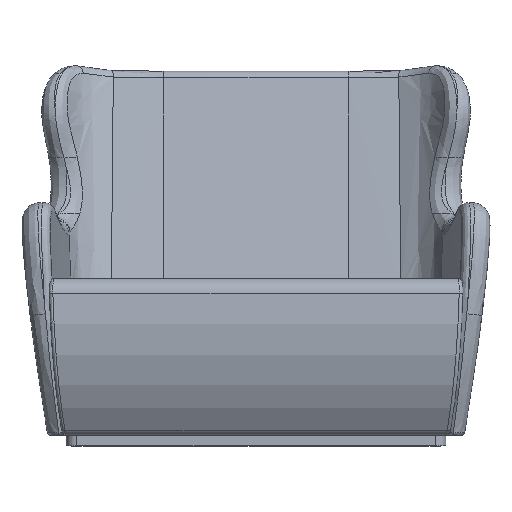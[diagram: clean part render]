
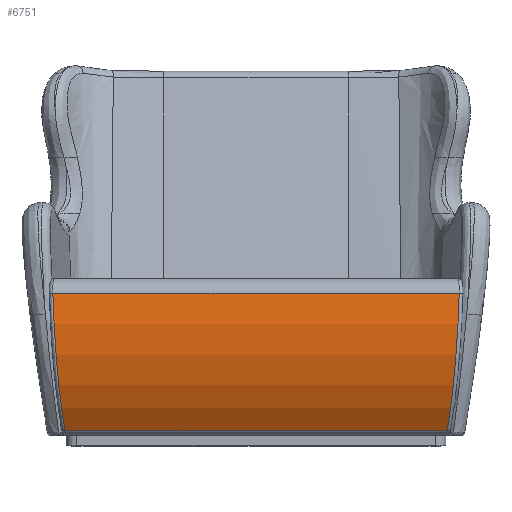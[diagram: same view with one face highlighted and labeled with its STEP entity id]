
A CAD part, top view. The second image highlights one B-rep face of the part: STEP entity #6751.
In plain terms, the highlighted cylindrical face has radius 525.307 mm (diameter 1050.61 mm), a partial arc.
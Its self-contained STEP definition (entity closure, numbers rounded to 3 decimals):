
#151 = ORIENTED_EDGE ( 'NONE', *, *, #16583, .T. ) ;
#741 = CARTESIAN_POINT ( 'NONE',  ( 797.465, -305.043, 442.32 ) ) ;
#967 = CARTESIAN_POINT ( 'NONE',  ( 817.181, -152.859, 512.193 ) ) ;
#1102 = CARTESIAN_POINT ( 'NONE',  ( 820.872, -111.828, 521.542 ) ) ;
#1127 = CARTESIAN_POINT ( 'NONE',  ( -286.775, -242.818, 478.013 ) ) ;
#1211 = CARTESIAN_POINT ( 'NONE',  ( -435.622, 81.202, 522.237 ) ) ;
#1242 = CARTESIAN_POINT ( 'NONE',  ( 822.546, -90.904, 525.038 ) ) ;
#1405 = CARTESIAN_POINT ( 'NONE',  ( -285.488, -252.248, 473.3 ) ) ;
#1672 = CARTESIAN_POINT ( 'NONE',  ( -303.8, -74.1, 527.285 ) ) ;
#3024 = CARTESIAN_POINT ( 'NONE',  ( 823.8, -74.1, 527.285 ) ) ;
#3232 = VERTEX_POINT ( 'NONE', #741 ) ;
#3292 = CARTESIAN_POINT ( 'NONE',  ( 805.488, -252.248, 473.3 ) ) ;
#3454 = CARTESIAN_POINT ( 'NONE',  ( -302.867, -86.703, 525.648 ) ) ;
#3592 = CARTESIAN_POINT ( 'NONE',  ( -286.265, -246.6, 476.157 ) ) ;
#3719 = CARTESIAN_POINT ( 'NONE',  ( -298.725, -136.608, 516.396 ) ) ;
#3949 = CARTESIAN_POINT ( 'NONE',  ( 831.404, 81.202, 522.237 ) ) ;
#4244 = ORIENTED_EDGE ( 'NONE', *, *, #17317, .F. ) ;
#4323 = EDGE_CURVE ( 'NONE', #20987, #8501, #14944, .T. ) ;
#5341 = CARTESIAN_POINT ( 'NONE',  ( 813.865, -184.837, 502.277 ) ) ;
#5546 = LINE ( 'NONE', #18176, #12032 ) ;
#5769 = CARTESIAN_POINT ( 'NONE',  ( -297.181, -152.859, 512.193 ) ) ;
#6404 = EDGE_CURVE ( 'NONE', #21236, #20987, #18215, .T. ) ;
#6751 = ADVANCED_FACE ( 'NONE', ( #17498 ), #17081, .T. ) ;
#7027 = EDGE_LOOP ( 'NONE', ( #151, #4244, #26507, #8051 ) ) ;
#7271 = CARTESIAN_POINT ( 'NONE',  ( 822.383, -93.006, 524.719 ) ) ;
#7837 = CARTESIAN_POINT ( 'NONE',  ( -303.495, -78.301, 526.778 ) ) ;
#8051 = ORIENTED_EDGE ( 'NONE', *, *, #4323, .T. ) ;
#8501 = VERTEX_POINT ( 'NONE', #21565 ) ;
#9449 = CARTESIAN_POINT ( 'NONE',  ( 812.093, -200.563, 496.565 ) ) ;
#9583 = CARTESIAN_POINT ( 'NONE',  ( 825.283, -53.097, 529.563 ) ) ;
#9608 = CARTESIAN_POINT ( 'NONE',  ( -306.339, -36.299, 530.566 ) ) ;
#9820 = DIRECTION ( 'NONE',  ( -1., 0., 0. ) ) ;
#11046 = CARTESIAN_POINT ( 'NONE',  ( -435.622, -13.27, 5.495 ) ) ;
#11327 = DIRECTION ( 'NONE',  ( 0., 0., -1. ) ) ;
#11389 = CARTESIAN_POINT ( 'NONE',  ( 818.725, -136.608, 516.396 ) ) ;
#11519 = CARTESIAN_POINT ( 'NONE',  ( 823.026, -84.602, 525.941 ) ) ;
#11541 = CARTESIAN_POINT ( 'NONE',  ( -284.436, -259.745, 469.393 ) ) ;
#11659 = CARTESIAN_POINT ( 'NONE',  ( 804.701, -257.875, 470.382 ) ) ;
#11795 = CARTESIAN_POINT ( 'NONE',  ( -311.404, 81.202, 522.237 ) ) ;
#11818 = CARTESIAN_POINT ( 'NONE',  ( -302.546, -90.904, 525.038 ) ) ;
#11950 = CARTESIAN_POINT ( 'NONE',  ( -293.865, -184.837, 502.277 ) ) ;
#12032 = VECTOR ( 'NONE', #13913, 1000. ) ;
#12081 = CARTESIAN_POINT ( 'NONE',  ( -289.258, -223.756, 486.861 ) ) ;
#13296 = CARTESIAN_POINT ( 'NONE',  ( 822.867, -86.703, 525.648 ) ) ;
#13434 = CARTESIAN_POINT ( 'NONE',  ( 830.39, 47.647, 527.53 ) ) ;
#13704 = CARTESIAN_POINT ( 'NONE',  ( 808.283, -231.421, 483.437 ) ) ;
#13913 = DIRECTION ( 'NONE',  ( 1., 0., 0. ) ) ;
#14142 = CARTESIAN_POINT ( 'NONE',  ( -309.013, 14.078, 530.36 ) ) ;
#14273 = CARTESIAN_POINT ( 'NONE',  ( -308.204, -2.711, 530.964 ) ) ;
#14944 = B_SPLINE_CURVE_WITH_KNOTS ( 'NONE', 3,
 ( #18405, #18129, #22255, #14142, #14273, #9608, #26638, #1672, #7837, #24704, #3454, #11818, #26364, #16070, #20192, #3719, #5769, #11950, #15791, #12081, #17993, #1127, #3592, #1405, #18274, #22650, #11541, #19921, #20461, #26762 ),
 .UNSPECIFIED., .F., .F.,
 ( 4, 2, 2, 2, 2, 2, 2, 2, 2, 2, 2, 2, 2, 2, 4 ),
 ( 0., 0.05, 0.101, 0.151, 0.164, 0.17, 0.177, 0.202, 0.252, 0.303, 0.328, 0.341, 0.347, 0.353, 0.404 ),
 .UNSPECIFIED. ) ;
#15505 = CARTESIAN_POINT ( 'NONE',  ( 802.038, -276.516, 460.396 ) ) ;
#15634 = CARTESIAN_POINT ( 'NONE',  ( 806.265, -246.6, 476.157 ) ) ;
#15768 = CARTESIAN_POINT ( 'NONE',  ( 829.013, 14.078, 530.36 ) ) ;
#15791 = CARTESIAN_POINT ( 'NONE',  ( -292.093, -200.563, 496.565 ) ) ;
#16070 = CARTESIAN_POINT ( 'NONE',  ( -301.559, -103.501, 523.064 ) ) ;
#16583 = EDGE_CURVE ( 'NONE', #8501, #3232, #5546, .T. ) ;
#17081 = CYLINDRICAL_SURFACE ( 'NONE', #21715, 525.307 ) ;
#17219 = DIRECTION ( 'NONE',  ( 1., 0., 0. ) ) ;
#17317 = EDGE_CURVE ( 'NONE', #21236, #3232, #19263, .T. ) ;
#17498 = FACE_OUTER_BOUND ( 'NONE', #7027, .T. ) ;
#17832 = CARTESIAN_POINT ( 'NONE',  ( 831.404, 81.202, 522.237 ) ) ;
#17993 = CARTESIAN_POINT ( 'NONE',  ( -288.283, -231.421, 483.437 ) ) ;
#18129 = CARTESIAN_POINT ( 'NONE',  ( -310.957, 64.427, 525.304 ) ) ;
#18176 = CARTESIAN_POINT ( 'NONE',  ( -435.622, -305.043, 442.32 ) ) ;
#18215 = LINE ( 'NONE', #1211, #24757 ) ;
#18274 = CARTESIAN_POINT ( 'NONE',  ( -285.227, -254.126, 472.335 ) ) ;
#18405 = CARTESIAN_POINT ( 'NONE',  ( -311.404, 81.202, 522.237 ) ) ;
#19263 = B_SPLINE_CURVE_WITH_KNOTS ( 'NONE', 3,
 ( #17832, #21948, #13434, #15768, #24144, #19507, #9583, #3024, #19898, #11519, #13296, #1242, #7271, #19764, #1102, #11389, #967, #5341, #9449, #24274, #13704, #22084, #15634, #3292, #21680, #11659, #26339, #15505, #24010, #20035 ),
 .UNSPECIFIED., .F., .F.,
 ( 4, 2, 2, 2, 2, 2, 2, 2, 2, 2, 2, 2, 2, 2, 4 ),
 ( 0., 0.05, 0.101, 0.151, 0.164, 0.17, 0.177, 0.202, 0.252, 0.303, 0.328, 0.341, 0.347, 0.353, 0.404 ),
 .UNSPECIFIED. ) ;
#19507 = CARTESIAN_POINT ( 'NONE',  ( 826.339, -36.299, 530.566 ) ) ;
#19764 = CARTESIAN_POINT ( 'NONE',  ( 821.559, -103.501, 523.064 ) ) ;
#19898 = CARTESIAN_POINT ( 'NONE',  ( 823.495, -78.301, 526.778 ) ) ;
#19921 = CARTESIAN_POINT ( 'NONE',  ( -282.038, -276.516, 460.396 ) ) ;
#20035 = CARTESIAN_POINT ( 'NONE',  ( 797.465, -305.043, 442.32 ) ) ;
#20192 = CARTESIAN_POINT ( 'NONE',  ( -300.872, -111.828, 521.542 ) ) ;
#20461 = CARTESIAN_POINT ( 'NONE',  ( -279.804, -290.994, 451.703 ) ) ;
#20987 = VERTEX_POINT ( 'NONE', #11795 ) ;
#21236 = VERTEX_POINT ( 'NONE', #3949 ) ;
#21565 = CARTESIAN_POINT ( 'NONE',  ( -277.465, -305.043, 442.32 ) ) ;
#21680 = CARTESIAN_POINT ( 'NONE',  ( 805.227, -254.126, 472.335 ) ) ;
#21715 = AXIS2_PLACEMENT_3D ( 'NONE', #11046, #17219, #11327 ) ;
#21948 = CARTESIAN_POINT ( 'NONE',  ( 830.957, 64.427, 525.304 ) ) ;
#22084 = CARTESIAN_POINT ( 'NONE',  ( 806.775, -242.818, 478.013 ) ) ;
#22255 = CARTESIAN_POINT ( 'NONE',  ( -310.39, 47.647, 527.53 ) ) ;
#22650 = CARTESIAN_POINT ( 'NONE',  ( -284.701, -257.875, 470.382 ) ) ;
#24010 = CARTESIAN_POINT ( 'NONE',  ( 799.804, -290.994, 451.703 ) ) ;
#24144 = CARTESIAN_POINT ( 'NONE',  ( 828.204, -2.711, 530.964 ) ) ;
#24274 = CARTESIAN_POINT ( 'NONE',  ( 809.258, -223.756, 486.861 ) ) ;
#24704 = CARTESIAN_POINT ( 'NONE',  ( -303.026, -84.602, 525.941 ) ) ;
#24757 = VECTOR ( 'NONE', #9820, 1000. ) ;
#26339 = CARTESIAN_POINT ( 'NONE',  ( 804.436, -259.745, 469.393 ) ) ;
#26364 = CARTESIAN_POINT ( 'NONE',  ( -302.383, -93.006, 524.719 ) ) ;
#26507 = ORIENTED_EDGE ( 'NONE', *, *, #6404, .T. ) ;
#26638 = CARTESIAN_POINT ( 'NONE',  ( -305.283, -53.097, 529.563 ) ) ;
#26762 = CARTESIAN_POINT ( 'NONE',  ( -277.465, -305.043, 442.32 ) ) ;
